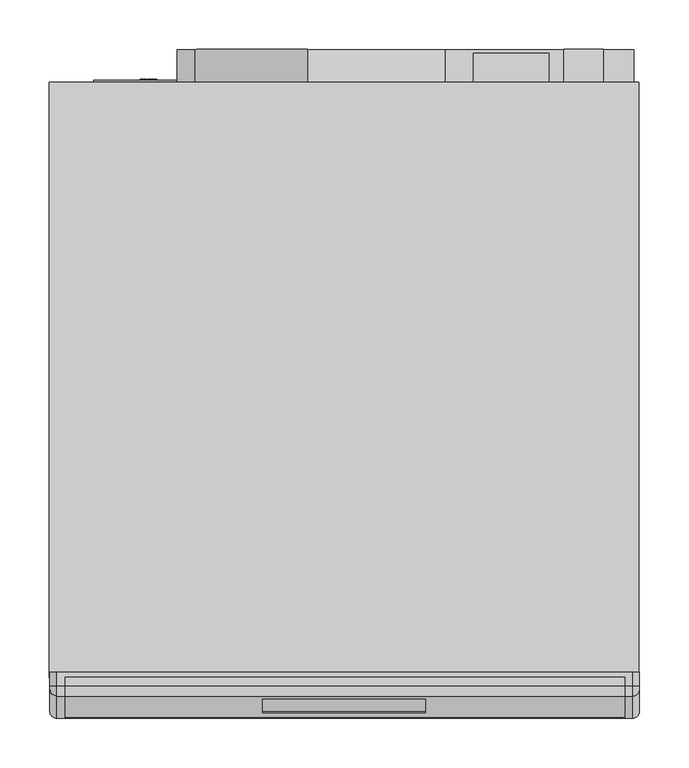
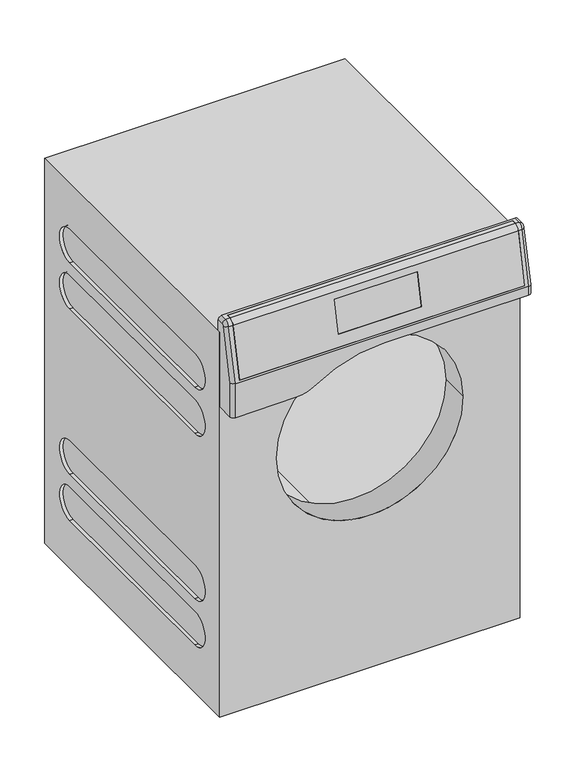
"""IFC4 building model written with IfcOpenShell, lengths in millimetres: proxy geometry, 12752080_I_PDR508ROPEL_SST : 52508462_I_12752080_PDR508ROPEL_SST."""

from ifc_helpers import new_model, si_unit, point, frame, frame_2d, origin, origin_with_axes, place, context, project, spatial, polyline, circle_curve, ellipse_curve, trimmed, segment, composite_curve, outline, extrude, source, transform, mapped, element, save
from ifc_brep_helpers import plane_surface, cylinder_surface, revolved_surface, advanced_brep


def specialty_equipment_6a1f8d6e(model_context):
    return source(origin(), model_context, "Body", "SolidModel", [
        advanced_brep(
        [(284.0, -653.5042463, 835.7290958), (284.0, -643.9845398, 843.6465521), (284.0, -635.5, 843.8687276), (284.0, -635.5, 844.8690704), (284.0, -644.0107168, 844.6462094), (284.0, -654.4823939, 835.9370075), (284.0, -676.1497738, 734.0), (284.0, -675.1274332, 734.0), (-282.0, -653.5042463, 835.7290958), (-282.0, -675.1274332, 734.0), (-282.0, -676.1497738, 734.0), (-282.0, -654.4823939, 835.9370075), (-282.0, -644.0107168, 844.6462094), (-282.0, -635.5, 844.8690704), (-282.0, -635.5, 843.8687276), (-282.0, -643.9845398, 843.6465521), (82.5, -657.4447963, 822.0), (82.5, -671.2609728, 757.0), (-82.5, -671.2609728, 757.0), (-82.5, -657.4447963, 822.0), (82.5, -670.2386322, 757.0), (82.5, -656.4224557, 822.0), (-82.5, -656.4224557, 822.0), (-82.5, -670.2386322, 757.0)],
        [
            (0, 1, circle_curve(frame((284.0, -643.7227703, 833.6499789), z_axis=(-1.0, 0.0, 0.0), x_axis=(0.0, 1.0, 0.0)), 10.0)),
            (1, 2),
            (2, 3),
            (3, 4),
            (4, 5, circle_curve(frame((284.0, -643.7227703, 833.6499789), z_axis=(1.0, 0.0, 0.0), x_axis=(0.0, 1.0, 0.0)), 11.0)),
            (5, 6),
            (6, 7),
            (7, 0),
            (8, 9),
            (9, 10),
            (10, 11),
            (11, 12, circle_curve(frame((-282.0, -643.7227703, 833.6499789), z_axis=(-1.0, 0.0, 0.0), x_axis=(0.0, 1.0, 0.0)), 11.0)),
            (12, 13),
            (13, 14),
            (14, 15),
            (15, 8, circle_curve(frame((-282.0, -643.7227703, 833.6499789), z_axis=(1.0, 0.0, 0.0), x_axis=(0.0, 1.0, 0.0)), 10.0)),
            (0, 8),
            (15, 1),
            (14, 2),
            (13, 3),
            (12, 4),
            (11, 5),
            (10, 6),
            (16, 17),
            (17, 18),
            (18, 19),
            (19, 16),
            (9, 7),
            (20, 21),
            (21, 22),
            (22, 23),
            (23, 20),
            (20, 17),
            (16, 21),
            (22, 19),
            (18, 23),
        ],
        [
            plane_surface(frame((284.0, -633.7227703, 833.6499789), z_axis=(1.0, 0.0, 0.0), x_axis=(0.0, 0.0, -1.0))),
            plane_surface(frame((-282.0, -633.7227703, 833.6499789), z_axis=(-1.0, 0.0, 0.0), x_axis=(0.0, 0.0, 1.0))),
            revolved_surface(polyline([(-282.0, -633.7227703, 833.6499789), (284.0, -633.7227703, 833.6499789)]), (-282.0, -643.7227703, 833.6499789), (-1.0, 0.0, 0.0)),
            plane_surface(frame((284.0, -643.9845398, 843.6465521), z_axis=(0.0, 0.026176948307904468, -0.9996573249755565), x_axis=(-1.0, 0.0, 0.0))),
            plane_surface(frame((284.0, -635.5, 843.8687276), z_axis=(0.0, 1.0, 0.0), x_axis=(-1.0, 0.0, 0.0))),
            plane_surface(frame((284.0, -635.5, 844.8690704), z_axis=(0.0, -0.026176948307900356, 0.9996573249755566), x_axis=(-1.0, 0.0, 0.0))),
            cylinder_surface(frame((-282.0, -643.7227703, 833.6499789), z_axis=(1.0, 0.0, 0.0), x_axis=(0.0, 1.0, 0.0)), 11.0),
            plane_surface(frame((284.0, -654.4823939, 835.9370075), z_axis=(0.0, -0.9781476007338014, 0.20791169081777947), x_axis=(-1.0, 0.0, 0.0))),
            plane_surface(frame((284.0, -676.1497738, 734.0), z_axis=(0.0, 0.0, -1.0), x_axis=(-1.0, 0.0, 0.0))),
            plane_surface(frame((284.0, -675.1274332, 734.0), z_axis=(0.0, 0.9781476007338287, -0.20791169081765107), x_axis=(-1.0, 0.0, 0.0))),
            plane_surface(frame((82.5, -657.4447963, 822.0), z_axis=(-1.0, 0.0, 0.0), x_axis=(0.0, -1.0, 0.0))),
            plane_surface(frame((-82.5, -657.4447963, 822.0), z_axis=(1.0, 0.0, 0.0), x_axis=(0.0, 1.0, 0.0))),
            plane_surface(frame((82.5, -656.4224557, 822.0), z_axis=(0.0, 0.0, -1.0), x_axis=(-1.0, 0.0, 0.0))),
            plane_surface(frame((82.5, -671.2609728, 757.0), z_axis=(0.0, 0.0, 1.0), x_axis=(-1.0, 0.0, 0.0))),
        ],
        [
            (0, [[1, 2, 3, 4, 5, 6, 7, 8]]),
            (1, [[9, 10, 11, 12, 13, 14, 15, 16]]),
            (2, [[-1, 17, -16, 18]]),
            (3, [[-2, -18, -15, 19]]),
            (4, [[-3, -19, -14, 20]]),
            (5, [[-4, -20, -13, 21]]),
            (6, [[-5, -21, -12, 22]]),
            (7, [[-6, -22, -11, 23], [24, 25, 26, 27]]),
            (8, [[-7, -23, -10, 28]]),
            (9, [[-8, -28, -9, -17], [29, 30, 31, 32]]),
            (10, [[33, -24, 34, -29]]),
            (11, [[35, -26, 36, -31]]),
            (12, [[-34, -27, -35, -30]]),
            (13, [[-33, -32, -36, -25]]),
        ],
    ),
        advanced_brep(
        [(298.5, -636.0, 815.0), (298.5, -630.5, 815.0), (298.5, -630.5, 837.9976005), (298.5, -643.8274781, 837.6486082), (298.5, -647.6353607, 834.4816256), (298.5, -670.0, 729.2642704), (298.5, -670.0, 712.0), (298.5, -636.0, 712.0), (-297.5, -636.0, 815.0), (-297.5, -636.0, 659.0), (-297.5, -670.0, 659.0), (-297.5, -670.0, 729.2642704), (-297.5, -647.6353607, 834.4816256), (-297.5, -643.8274781, 837.6486082), (-297.5, -630.5, 837.9976005), (-297.5, -630.5, 815.0), (-290.5, -630.5, 845.0), (291.5, -630.5, 845.0), (284.0, -635.5, 844.8690704), (284.0, -644.0107168, 844.6462094), (291.5, -644.0107168, 844.6462094), (-290.5, -644.0107168, 844.6462094), (-282.0, -644.0107168, 844.6462094), (-282.0, -635.5, 844.8690704), (284.0, -654.4823939, 835.9370075), (291.5000074, -654.4823939, 835.9370075), (-282.0, -654.4823939, 835.9370075), (-290.5, -654.4823939, 835.9370075), (284.0, -676.1497738, 734.0), (-282.0, -676.1497738, 734.0), (-290.5, -677.0, 730.0), (291.5, -677.0, 730.0), (-290.5, -677.0, 659.0), (-170.6302935, -677.0, 659.0), (-135.780818, -677.0, 669.5165354), (5.0, -677.0, 712.0), (291.5, -677.0, 712.0), (-170.6302935, -636.0, 659.0), (5.0, -636.0, 712.0), (-135.780818, -636.0, 669.5165354), (284.0, -635.5, 843.8687276), (284.0, -643.9845398, 843.6465521), (284.0, -653.5042463, 835.7290958), (284.0, -675.1274332, 734.0), (-282.0, -675.1274332, 734.0), (-282.0, -653.5042463, 835.7290958), (-282.0, -643.9845398, 843.6465521), (-282.0, -635.5, 843.8687276)],
        [
            (0, 1),
            (1, 2),
            (2, 3),
            (3, 4, circle_curve(frame((298.5, -643.7227703, 833.6499789), z_axis=(1.0, 0.0, 0.0), x_axis=(0.0, -0.02617694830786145, 0.9996573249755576)), 4.0)),
            (4, 5),
            (5, 6),
            (6, 7),
            (7, 0),
            (8, 9),
            (9, 10),
            (10, 11),
            (11, 12),
            (12, 13, circle_curve(frame((-297.5, -643.7227703, 833.6499789), z_axis=(-1.0, 0.0, 0.0), x_axis=(0.0, -0.9781476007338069, 0.20791169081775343)), 4.0)),
            (13, 14),
            (14, 15),
            (15, 8),
            (0, 8),
            (15, 1),
            (14, 16, ellipse_curve(frame((-290.5, -630.5, 837.9976005), z_axis=(0.0, 1.0, 0.0), x_axis=(0.0, 0.0, 0.9999999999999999)), 7.0023995, 7.0)),
            (16, 17),
            (17, 2, ellipse_curve(frame((291.5, -630.5, 837.9976005), z_axis=(0.0, 1.0, 0.0), x_axis=(0.0, 0.0, -1.0)), 7.0023995, 7.0)),
            (18, 19),
            (19, 20),
            (20, 17),
            (16, 21),
            (21, 22),
            (22, 23),
            (23, 18),
            (19, 24, circle_curve(frame((284.0, -643.7227703, 833.6499789), z_axis=(1.0, 0.0, 0.0), x_axis=(0.0, 1.0, 0.0)), 11.0)),
            (24, 25),
            (25, 20, circle_curve(frame((291.5, -643.7227703, 833.6499789), z_axis=(-1.0, 0.0, 0.0), x_axis=(0.0, 1.0, 0.0)), 11.0)),
            (26, 22, circle_curve(frame((-282.0, -643.7227703, 833.6499789), z_axis=(-1.0, 0.0, 0.0), x_axis=(0.0, 1.0, 0.0)), 11.0)),
            (21, 27, circle_curve(frame((-290.5, -643.7227703, 833.6499789), z_axis=(1.0, 0.0, 0.0), x_axis=(0.0, 1.0, 0.0)), 11.0)),
            (27, 26),
            (24, 28),
            (28, 29),
            (29, 26),
            (27, 30),
            (30, 31),
            (31, 25),
            (30, 32),
            (32, 33),
            (33, 34, circle_curve(frame((-170.6302935, -677.0, 722.0), z_axis=(0.0, -1.0, 0.0), x_axis=(1.0, 0.0, 0.0)), 63.0)),
            (34, 35, circle_curve(frame((5.0, -677.0, 457.5), z_axis=(0.0, 1.0, 0.0), x_axis=(1.0, 0.0, 0.0)), 254.5)),
            (35, 36),
            (36, 31),
            (9, 37),
            (37, 33),
            (32, 10, circle_curve(frame((-290.5, -670.0, 659.0), z_axis=(0.0, 0.0, -1.0), x_axis=(0.0, 1.0, 0.0)), 7.0)),
            (7, 38),
            (38, 39, circle_curve(frame((5.0, -636.0, 457.5), z_axis=(0.0, -1.0, 0.0), x_axis=(1.0, 0.0, 0.0)), 254.5)),
            (39, 37, circle_curve(frame((-170.6302935, -636.0, 722.0), z_axis=(0.0, 1.0, 0.0), x_axis=(1.0, 0.0, 0.0)), 63.0)),
            (18, 40),
            (40, 41),
            (41, 42, circle_curve(frame((284.0, -643.7227703, 833.6499789), z_axis=(1.0, 0.0, 0.0), x_axis=(0.0, 1.0, 0.0)), 10.0)),
            (42, 43),
            (43, 28),
            (29, 44),
            (44, 45),
            (45, 46, circle_curve(frame((-282.0, -643.7227703, 833.6499789), z_axis=(-1.0, 0.0, 0.0), x_axis=(0.0, 1.0, 0.0)), 10.0)),
            (46, 47),
            (47, 23),
            (43, 44),
            (42, 45),
            (41, 46),
            (40, 47),
            (30, 11, ellipse_curve(frame((-290.5, -670.0, 729.2642704), z_axis=(0.0, -0.10452846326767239, -0.9945218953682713), x_axis=(0.0, -0.9945218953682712, 0.1045284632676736)), 7.038558, 7.0)),
            (13, 21, circle_curve(frame((-290.5, -643.8274781, 837.6486082), z_axis=(0.0, 0.9996573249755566, 0.026176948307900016), x_axis=(0.0, 0.026176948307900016, -0.9996573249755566)), 7.0)),
            (20, 3, circle_curve(frame((291.5, -643.8274781, 837.6486082), z_axis=(0.0, 0.9996573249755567, 0.026176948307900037), x_axis=(1.0, 0.0, 0.0)), 7.0)),
            (25, 4, circle_curve(frame((291.5, -647.6353607, 834.4816256), z_axis=(0.0, 0.2079116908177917, 0.9781476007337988), x_axis=(1.0, 0.0, 0.0)), 7.0)),
            (31, 5, ellipse_curve(frame((291.5, -670.0, 729.2642704), z_axis=(0.0, 0.10452846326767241, 0.9945218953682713), x_axis=(0.0, -0.9945218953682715, 0.10452846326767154)), 7.038558, 7.0)),
            (36, 6, circle_curve(frame((291.5, -670.0, 712.0), z_axis=(0.0, 0.0, 1.0), x_axis=(1.0, 0.0, 0.0)), 7.0)),
            (35, 38),
            (34, 39),
            (27, 12, circle_curve(frame((-290.5, -647.6353607, 834.4816256), z_axis=(0.0, -0.20791169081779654, -0.9781476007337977), x_axis=(0.0, 0.9781476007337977, -0.20791169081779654)), 7.0)),
        ],
        [
            plane_surface(frame((298.5, -630.5, 815.0), z_axis=(1.0, 0.0, 0.0), x_axis=(0.0, 1.0, 0.0))),
            plane_surface(frame((-297.5, -630.5, 815.0), z_axis=(-1.0, 0.0, 0.0), x_axis=(0.0, -1.0, 0.0))),
            plane_surface(frame((298.5, -636.0, 815.0), z_axis=(0.0, 0.0, -1.0), x_axis=(-1.0, 0.0, 0.0))),
            plane_surface(frame((298.5, -630.5, 815.0), z_axis=(0.0, 1.0, 0.0), x_axis=(-1.0, 0.0, 0.0))),
            plane_surface(frame((298.5, -630.5, 845.0), z_axis=(0.0, -0.026176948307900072, 0.9996573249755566), x_axis=(-1.0, 0.0, 0.0))),
            cylinder_surface(frame((-297.5, -643.7227703, 833.6499789), z_axis=(1.0, 0.0, 0.0), x_axis=(0.0, 1.0, 0.0)), 11.0),
            plane_surface(frame((298.5, -654.4823939, 835.9370075), z_axis=(0.0, -0.9781476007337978, 0.20791169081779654), x_axis=(-1.0, 0.0, 0.0))),
            plane_surface(frame((298.5, -677.0, 730.0), z_axis=(0.0, -1.0, 0.0), x_axis=(-1.0, 0.0, 0.0))),
            plane_surface(frame((298.5, -677.0, 659.0), z_axis=(0.0, 0.0, -1.0), x_axis=(-1.0, 0.0, 0.0))),
            plane_surface(frame((298.5, -636.0, 659.0), z_axis=(0.0, 1.0, 0.0), x_axis=(-1.0, 0.0, 0.0))),
            plane_surface(frame((284.0, -676.1497738, 734.0), z_axis=(-1.0, 0.0, 0.0), x_axis=(0.0, 1.0, 0.0))),
            plane_surface(frame((-282.0, -676.1497738, 734.0), z_axis=(1.0, 0.0, 0.0), x_axis=(0.0, -1.0, 0.0))),
            plane_surface(frame((284.0, -676.1497738, 734.0), z_axis=(0.0, 0.0, 1.0), x_axis=(-1.0, 0.0, 0.0))),
            plane_surface(frame((284.0, -675.1274332, 734.0), z_axis=(0.0, -0.9781476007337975, 0.20791169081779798), x_axis=(-1.0, 0.0, 0.0))),
            cylinder_surface(frame((-282.0, -643.7227703, 833.6499789), z_axis=(-1.0, 0.0, 0.0), x_axis=(0.0, 1.0, 0.0)), 10.0),
            plane_surface(frame((284.0, -643.9845398, 843.6465521), z_axis=(0.0, -0.026176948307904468, 0.9996573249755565), x_axis=(-1.0, 0.0, 0.0))),
            plane_surface(frame((284.0, -635.5, 843.8687276), z_axis=(0.0, -1.0, 0.0), x_axis=(-1.0, 0.0, 0.0))),
            cylinder_surface(frame((-290.5, -670.0, 659.0), z_axis=(0.0, 0.0, 1.0), x_axis=(0.0, 1.0, 0.0)), 7.0),
            cylinder_surface(frame((-290.5, -643.8274781, 837.6486082), z_axis=(0.0, 0.9996573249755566, 0.026176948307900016), x_axis=(0.0, 0.026176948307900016, -0.9996573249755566)), 7.0),
            cylinder_surface(frame((291.5, -630.3167614, 838.0023987), z_axis=(0.0, -0.9996573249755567, -0.026176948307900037), x_axis=(1.0, 0.0, 0.0)), 7.0),
            revolved_surface(trimmed(ellipse_curve(frame((291.5, -643.8274781, 837.6486082), z_axis=(0.0, 0.9996573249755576, 0.026176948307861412), x_axis=(1.0, 0.0, 0.0)), 7.0, 7.0), [point((291.5, -644.0107168, 844.6462094))], [point((298.5, -643.8274781, 837.6486082))], True, "CARTESIAN"), (298.5, -643.7227703, 833.6499789), (1.0, 0.0, 0.0)),
            cylinder_surface(frame((291.5, -647.6353607, 834.4816256), z_axis=(0.0, -0.20791169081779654, -0.9781476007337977), x_axis=(1.0, 0.0, 0.0)), 7.0),
            cylinder_surface(frame((291.5, -670.0, 730.0), z_axis=(0.0, 0.0, -1.0), x_axis=(1.0, 0.0, 0.0)), 7.0),
            plane_surface(frame((298.5, -677.0, 712.0), z_axis=(0.0, 0.0, -1.0), x_axis=(0.0, 1.0, 0.0))),
            revolved_surface(polyline([(259.5, -677.0, 457.5), (259.5, -636.0, 457.5)]), (5.0, -636.0, 457.5), (0.0, -1.0, 0.0)),
            cylinder_surface(frame((-170.6302935, -636.0, 722.0), z_axis=(0.0, 1.0, 0.0), x_axis=(1.0, 0.0, 0.0)), 63.0),
            cylinder_surface(frame((-290.5, -670.1529668, 728.5446182), z_axis=(0.0, 0.20791169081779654, 0.9781476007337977), x_axis=(0.0, 0.9781476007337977, -0.20791169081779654)), 7.0),
            revolved_surface(trimmed(ellipse_curve(frame((-290.5, -647.6353607, 834.4816256), z_axis=(0.0, -0.2079116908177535, -0.9781476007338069), x_axis=(0.0, 0.9781476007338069, -0.2079116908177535)), 7.0, 7.0), [point((-290.5, -654.4823939, 835.9370075))], [point((-297.5, -647.6353607, 834.4816256))], True, "CARTESIAN"), (-297.5, -643.7227703, 833.6499789), (-1.0, 0.0, 0.0)),
        ],
        [
            (0, [[1, 2, 3, 4, 5, 6, 7, 8]]),
            (1, [[9, 10, 11, 12, 13, 14, 15, 16]]),
            (2, [[-1, 17, -16, 18]]),
            (3, [[-18, -15, 19, 20, 21, -2]]),
            (4, [[22, 23, 24, -20, 25, 26, 27, 28]]),
            (5, [[29, 30, 31, -23]]),
            (5, [[32, -26, 33, 34]]),
            (6, [[35, 36, 37, -34, 38, 39, 40, -30]]),
            (7, [[41, 42, 43, 44, 45, 46, -39]]),
            (8, [[-10, 47, 48, -42, 49]]),
            (9, [[-9, -17, -8, 50, 51, 52, -47]]),
            (10, [[53, 54, 55, 56, 57, -35, -29, -22]]),
            (11, [[58, 59, 60, 61, 62, -27, -32, -37]]),
            (12, [[-57, 63, -58, -36]]),
            (13, [[-56, 64, -59, -63]]),
            (14, [[-55, 65, -60, -64]]),
            (15, [[-54, 66, -61, -65]]),
            (16, [[-53, -28, -62, -66]]),
            (17, [[67, -11, -49, -41]]),
            (18, [[68, -25, -19, -14]]),
            (19, [[69, -3, -21, -24]]),
            (20, [[-69, -31, 70, -4]]),
            (21, [[-70, -40, 71, -5]]),
            (22, [[-71, -46, 72, -6]]),
            (23, [[73, -50, -7, -72, -45]]),
            (24, [[-73, -44, 74, -51]]),
            (25, [[-74, -43, -48, -52]]),
            (26, [[-67, -38, 75, -12]]),
            (27, [[-75, -33, -68, -13]]),
        ],
    ),
        extrude(outline(polyline([(-255.0, -34.0), (-209.0, -34.0), (-209.0, -35.0), (-255.0, -35.0), (-255.0, -34.0)])), frame((0.0, 0.0, 702.0), z_axis=(0.0, 0.0, 1.0), x_axis=(1.0, 0.0, 0.0)), (0.0, 0.0, 1.0), 91.0),
        extrude(outline(polyline([(81.9970141, 205.2110284), (81.9970141, 206.55391), (92.0465116, 202.5369367), (92.0465116, 201.4671972), (82.0001609, 197.4576916), (82.0001609, 198.7850496), (85.139586, 199.9365916), (85.139586, 204.0715681), (81.9970141, 205.2110284)]), holes=[polyline([(86.3975329, 200.3962857), (90.7905211, 202.0029406), (86.3975329, 203.5957875), (86.3975329, 200.3962857)])]), frame((0.0, -32.0, 0.0), z_axis=(0.0, 1.0, 0.0), x_axis=(0.0, 0.0, 1.0)), (0.0, 0.0, 1.0), 1.0),
        extrude(outline(polyline([(92.0465116, 194.8537288), (83.2572828, 194.8537288), (83.2572828, 189.8537288), (82.0001609, 189.8537288), (82.0001609, 196.1151094), (92.0465116, 196.1151094), (92.0465116, 194.8537288)])), frame((0.0, -32.0, 0.0), z_axis=(0.0, 1.0, 0.0), x_axis=(0.0, 0.0, 1.0)), (0.0, 0.0, 1.0), 1.0),
        extrude(outline(polyline([(81.9970141, -190.7889716), (81.9970141, -189.44609), (92.0465116, -193.4630633), (92.0465116, -194.5328028), (82.0001609, -198.5423084), (82.0001609, -197.2149504), (85.139586, -196.0634084), (85.139586, -191.9284319), (81.9970141, -190.7889716)]), holes=[polyline([(86.3975329, -195.6037143), (90.7905211, -193.9970594), (86.3975329, -192.4042125), (86.3975329, -195.6037143)])]), frame((0.0, -32.0, 0.0), z_axis=(0.0, 1.0, 0.0), x_axis=(0.0, 0.0, 1.0)), (0.0, 0.0, 1.0), 1.0),
        extrude(outline(polyline([(92.0465116, -201.1462712), (83.2572828, -201.1462712), (83.2572828, -206.1462712), (82.0001609, -206.1462712), (82.0001609, -199.8848906), (92.0465116, -199.8848906), (92.0465116, -201.1462712)])), frame((0.0, -32.0, 0.0), z_axis=(0.0, 1.0, 0.0), x_axis=(0.0, 0.0, 1.0)), (0.0, 0.0, 1.0), 1.0),
        extrude(outline(composite_curve([segment(trimmed(circle_curve(frame_2d((87.0, 198.0)), 55.25), [point((87.0, 253.25))], [point((87.0, 142.75))], False, "CARTESIAN"), True, "CONTINUOUS"), segment(trimmed(circle_curve(frame_2d((87.0, 198.0)), 55.25), [point((87.0, 142.75))], [point((87.0, 253.25))], False, "CARTESIAN"), True, "CONTINUOUS")], self_intersect=False)), frame((0.0, -34.0, 0.0), z_axis=(0.0, 1.0, 0.0), x_axis=(0.0, 0.0, 1.0)), (0.0, 0.0, 1.0), 2.0),
        extrude(outline(composite_curve([segment(trimmed(circle_curve(frame_2d((87.0, -198.0)), 55.25), [point((87.0, -142.75))], [point((87.0, -253.25))], False, "CARTESIAN"), True, "CONTINUOUS"), segment(trimmed(circle_curve(frame_2d((87.0, -198.0)), 55.25), [point((87.0, -253.25))], [point((87.0, -142.75))], False, "CARTESIAN"), True, "CONTINUOUS")], self_intersect=False)), frame((0.0, -34.0, 0.0), z_axis=(0.0, 1.0, 0.0), x_axis=(0.0, 0.0, 1.0)), (0.0, 0.0, 1.0), 2.0),
        extrude(outline(polyline([(262.0, -1.0), (262.0, -34.0), (222.0, -34.0), (222.0, -1.0), (262.0, -1.0)])), frame((0.0, 0.0, 663.0), z_axis=(0.0, 0.0, 1.0), x_axis=(1.0, 0.0, 0.0)), (0.0, 0.0, 1.0), 102.0),
        extrude(outline(composite_curve([segment(polyline([(16.0012365, 171.8350179), (16.0012365, 173.0926569), (26.0457018, 173.0926569), (26.0457018, 169.2588697)]), True, "CONTINUOUS"), segment(trimmed(circle_curve(frame_2d((23.0634182, 169.2588697)), 2.9822837), [point((26.0457018, 169.2588697))], [point((20.0811345, 169.2588697))], False, "CARTESIAN"), True, "CONTINUOUS"), segment(polyline([(20.0811345, 169.2588697), (20.0811345, 171.8350179), (16.0012365, 171.8350179)]), True, "CONTINUOUS")], self_intersect=False), holes=[composite_curve([segment(trimmed(circle_curve(frame_2d((23.0644309, 169.2588697)), 1.7264899), [point((21.3379411, 169.2588697))], [point((24.7909208, 169.2588697))], True, "CARTESIAN"), True, "CONTINUOUS"), segment(polyline([(24.7909208, 169.2588697), (24.7909208, 171.8350179), (21.3379411, 171.8350179), (21.3379411, 169.2588697)]), True, "CONTINUOUS")], self_intersect=False)]), frame((0.0, -4.0, 0.0), z_axis=(0.0, 1.0, 0.0), x_axis=(0.0, 0.0, 1.0)), (0.0, 0.0, 1.0), 1.0),
        extrude(outline(polyline([(16.0006445, 163.6718375), (16.0006445, 165.0), (26.0451716, 160.9923232), (26.0451716, 159.9218811), (16.0004865, 155.9106116), (16.0004865, 157.2393282), (19.1391224, 158.3892124), (19.1391224, 162.526368), (16.0006445, 163.6718375)]), holes=[polyline([(20.3966781, 158.8483756), (24.7905035, 160.4566766), (20.3966781, 162.0651073), (20.3966781, 158.8483756)])]), frame((0.0, -4.0, 0.0), z_axis=(0.0, 1.0, 0.0), x_axis=(0.0, 0.0, 1.0)), (0.0, 0.0, 1.0), 1.0),
        extrude(outline(composite_curve([segment(trimmed(circle_curve(frame_2d((21.0, 165.0)), 7.5), [point((21.0, 172.5))], [point((21.0, 157.5))], False, "CARTESIAN"), True, "CONTINUOUS"), segment(trimmed(circle_curve(frame_2d((21.0, 165.0)), 7.5), [point((21.0, 157.5))], [point((21.0, 172.5))], False, "CARTESIAN"), True, "CONTINUOUS")], self_intersect=False)), frame((0.0, -34.0, 0.0), z_axis=(0.0, 1.0, 0.0), x_axis=(0.0, 0.0, 1.0)), (0.0, 0.0, 1.0), 30.0),
        extrude(outline(polyline([(164.7566495, -25.4555134), (158.4761766, -25.4555134), (158.4761766, -24.1997667), (163.4981583, -24.1997667), (163.4981583, -15.4081759), (164.7566495, -15.4081759), (164.7566495, -25.4555134)])), frame((0.0, 0.0, 665.0), z_axis=(0.0, 0.0, 1.0), x_axis=(1.0, 0.0, 0.0)), (0.0, 0.0, 1.0), 1.0),
        extrude(outline(polyline([(174.0215267, -15.4081759), (174.0215267, -25.4554669), (166.6392877, -25.4554669), (166.6392877, -24.1995171), (172.7595964, -24.1995171), (172.7595964, -20.9031269), (167.1079823, -20.9031269), (167.1079823, -19.6478177), (172.7596269, -19.6478177), (172.7596269, -16.6653752), (166.7945524, -16.6653752), (166.7945524, -15.4081759), (174.0215267, -15.4081759)])), frame((0.0, 0.0, 665.0), z_axis=(0.0, 0.0, 1.0), x_axis=(1.0, 0.0, 0.0)), (0.0, 0.0, 1.0), 1.0),
        extrude(outline(composite_curve([segment(trimmed(circle_curve(frame_2d((167.0, -20.5)), 7.5), [point((167.0, -13.0))], [point((167.0, -28.0))], False, "CARTESIAN"), True, "CONTINUOUS"), segment(trimmed(circle_curve(frame_2d((167.0, -20.5)), 7.5), [point((167.0, -28.0))], [point((167.0, -13.0))], False, "CARTESIAN"), True, "CONTINUOUS")], self_intersect=False)), frame((0.0, 0.0, 666.0), z_axis=(0.0, 0.0, 1.0), x_axis=(1.0, 0.0, 0.0)), (0.0, 0.0, 1.0), 30.0),
        extrude(outline(polyline([(131.0, -5.0), (207.0, -5.0), (207.0, -34.0), (131.0, -34.0), (131.0, -5.0)])), frame((0.0, 0.0, 696.0), z_axis=(0.0, 0.0, 1.0), x_axis=(1.0, 0.0, 0.0)), (0.0, 0.0, 1.0), 81.0),
        extrude(outline(composite_curve([segment(trimmed(circle_curve(frame_2d((-267.5, -51.0)), 16.0), [point((-251.5, -51.0))], [point((-283.5, -51.0))], False, "CARTESIAN"), True, "CONTINUOUS"), segment(trimmed(circle_curve(frame_2d((-267.5, -51.0)), 16.0), [point((-283.5, -51.0))], [point((-251.5, -51.0))], False, "CARTESIAN"), True, "CONTINUOUS")], self_intersect=False)), origin_with_axes(), (0.0, 0.0, 1.0), 8.0),
        extrude(outline(composite_curve([segment(trimmed(circle_curve(frame_2d((267.5, -51.0)), 16.0), [point((283.5, -51.0))], [point((251.5, -51.0))], False, "CARTESIAN"), True, "CONTINUOUS"), segment(trimmed(circle_curve(frame_2d((267.5, -51.0)), 16.0), [point((251.5, -51.0))], [point((283.5, -51.0))], False, "CARTESIAN"), True, "CONTINUOUS")], self_intersect=False)), origin_with_axes(), (0.0, 0.0, 1.0), 8.0),
        extrude(outline(composite_curve([segment(trimmed(circle_curve(frame_2d((267.5, -597.0)), 16.0), [point((283.5, -597.0))], [point((251.5, -597.0))], False, "CARTESIAN"), True, "CONTINUOUS"), segment(trimmed(circle_curve(frame_2d((267.5, -597.0)), 16.0), [point((251.5, -597.0))], [point((283.5, -597.0))], False, "CARTESIAN"), True, "CONTINUOUS")], self_intersect=False)), origin_with_axes(), (0.0, 0.0, 1.0), 8.0),
        extrude(outline(composite_curve([segment(trimmed(circle_curve(frame_2d((-267.5, -597.0)), 16.0), [point((-251.5, -597.0))], [point((-283.5, -597.0))], False, "CARTESIAN"), True, "CONTINUOUS"), segment(trimmed(circle_curve(frame_2d((-267.5, -597.0)), 16.0), [point((-283.5, -597.0))], [point((-251.5, -597.0))], False, "CARTESIAN"), True, "CONTINUOUS")], self_intersect=False)), origin_with_axes(), (0.0, 0.0, 1.0), 8.0),
        advanced_brep(
        [(-185.0, -578.5, 512.0), (-185.0, -636.0, 512.0), (185.0, -636.0, 512.0), (185.0, -578.5, 512.0), (298.0, -34.0, 815.0), (298.0, -34.0, 8.0), (-298.0, -34.0, 8.0), (-298.0, -34.0, 815.0), (-209.0, -34.0, 793.0), (-255.0, -34.0, 793.0), (-255.0, -34.0, 702.0), (-209.0, -34.0, 702.0), (298.0, -636.0, 815.0), (-298.0, -636.0, 815.0), (-298.0, -636.0, 8.0), (298.0, -636.0, 8.0), (298.0, -551.0, 649.0), (298.0, -551.0, 719.0), (298.0, -121.0, 719.0), (298.0, -121.0, 649.0), (298.0, -551.0, 552.0), (298.0, -551.0, 622.0), (298.0, -121.0, 622.0), (298.0, -121.0, 552.0), (298.0, -551.0, 205.5), (298.0, -551.0, 275.5), (298.0, -121.0, 275.5), (298.0, -121.0, 205.5), (298.0, -551.0, 108.5), (298.0, -551.0, 178.5), (298.0, -121.0, 178.5), (298.0, -121.0, 108.5), (-298.0, -551.0, 719.0), (-298.0, -551.0, 649.0), (-298.0, -121.0, 649.0), (-298.0, -121.0, 719.0), (-298.0, -551.0, 622.0), (-298.0, -551.0, 552.0), (-298.0, -121.0, 552.0), (-298.0, -121.0, 622.0), (-298.0, -551.0, 275.5), (-298.0, -551.0, 205.5), (-298.0, -121.0, 205.5), (-298.0, -121.0, 275.5), (-298.0, -551.0, 178.5), (-298.0, -551.0, 108.5), (-298.0, -121.0, 108.5), (-298.0, -121.0, 178.5), (291.0, -551.0, 719.0), (291.0, -551.0, 649.0), (291.0, -121.0, 649.0), (291.0, -121.0, 719.0), (291.0, -551.0, 622.0), (291.0, -551.0, 552.0), (291.0, -121.0, 552.0), (291.0, -121.0, 622.0), (291.0, -551.0, 275.5), (291.0, -551.0, 205.5), (291.0, -121.0, 205.5), (291.0, -121.0, 275.5), (291.0, -551.0, 178.5), (291.0, -551.0, 108.5), (291.0, -121.0, 108.5), (291.0, -121.0, 178.5), (-291.0, -551.0, 719.0), (-291.0, -121.0, 719.0), (-291.0, -121.0, 649.0), (-291.0, -551.0, 649.0), (-291.0, -551.0, 622.0), (-291.0, -121.0, 622.0), (-291.0, -121.0, 552.0), (-291.0, -551.0, 552.0), (-291.0, -551.0, 275.5), (-291.0, -121.0, 275.5), (-291.0, -121.0, 205.5), (-291.0, -551.0, 205.5), (-291.0, -551.0, 178.5), (-291.0, -121.0, 178.5), (-291.0, -121.0, 108.5), (-291.0, -551.0, 108.5), (0.0, -56.0, 229.0), (0.0, -56.0, 795.0), (-209.0, -56.0, 702.8088048), (-209.0, -56.0, 702.0), (-209.7355478, -56.0, 702.0), (0.0, -578.5, 229.0), (0.0, -578.5, 795.0), (-209.7355478, -151.0, 702.0), (-209.0, -151.0, 702.8088048), (-255.0, -151.0, 793.0), (-209.0, -151.0, 793.0), (-255.0, -151.0, 702.0)],
        [
            (0, 1),
            (1, 2, circle_curve(frame((0.0, -636.0, 512.0), z_axis=(0.0, -1.0, 0.0), x_axis=(-1.0, 0.0, 0.0)), 185.0)),
            (2, 3),
            (3, 0, circle_curve(frame((0.0, -578.5, 512.0), z_axis=(0.0, 1.0, 0.0), x_axis=(-1.0, 0.0, 0.0)), 185.0)),
            (0, 3, circle_curve(frame((0.0, -578.5, 512.0), z_axis=(0.0, 1.0, 0.0), x_axis=(-1.0, 0.0, 0.0)), 185.0)),
            (2, 1, circle_curve(frame((0.0, -636.0, 512.0), z_axis=(0.0, -1.0, 0.0), x_axis=(-1.0, 0.0, 0.0)), 185.0)),
            (4, 5),
            (5, 6),
            (6, 7),
            (7, 4),
            (8, 9),
            (9, 10),
            (10, 11),
            (11, 8),
            (12, 13),
            (13, 14),
            (14, 15),
            (15, 12),
            (4, 12),
            (15, 5),
            (16, 17, circle_curve(frame((298.0, -551.0, 684.0), z_axis=(-1.0, 0.0, 0.0), x_axis=(0.0, 1.0, 0.0)), 35.0)),
            (17, 18),
            (18, 19, circle_curve(frame((298.0, -121.0, 684.0), z_axis=(-1.0, 0.0, 0.0), x_axis=(0.0, 1.0, 0.0)), 35.0)),
            (19, 16),
            (20, 21, circle_curve(frame((298.0, -551.0, 587.0), z_axis=(-1.0, 0.0, 0.0), x_axis=(0.0, 1.0, 0.0)), 35.0)),
            (21, 22),
            (22, 23, circle_curve(frame((298.0, -121.0, 587.0), z_axis=(-1.0, 0.0, 0.0), x_axis=(0.0, 1.0, 0.0)), 35.0)),
            (23, 20),
            (24, 25, circle_curve(frame((298.0, -551.0, 240.5), z_axis=(-1.0, 0.0, 0.0), x_axis=(0.0, 1.0, 0.0)), 35.0)),
            (25, 26),
            (26, 27, circle_curve(frame((298.0, -121.0, 240.5), z_axis=(-1.0, 0.0, 0.0), x_axis=(0.0, 1.0, 0.0)), 35.0)),
            (27, 24),
            (28, 29, circle_curve(frame((298.0, -551.0, 143.5), z_axis=(-1.0, 0.0, 0.0), x_axis=(0.0, 1.0, 0.0)), 35.0)),
            (29, 30),
            (30, 31, circle_curve(frame((298.0, -121.0, 143.5), z_axis=(-1.0, 0.0, 0.0), x_axis=(0.0, 1.0, 0.0)), 35.0)),
            (31, 28),
            (14, 6),
            (13, 7),
            (32, 33, circle_curve(frame((-298.0, -551.0, 684.0), z_axis=(1.0, 0.0, 0.0), x_axis=(0.0, 1.0, 0.0)), 35.0)),
            (33, 34),
            (34, 35, circle_curve(frame((-298.0, -121.0, 684.0), z_axis=(1.0, 0.0, 0.0), x_axis=(0.0, 1.0, 0.0)), 35.0)),
            (35, 32),
            (36, 37, circle_curve(frame((-298.0, -551.0, 587.0), z_axis=(1.0, 0.0, 0.0), x_axis=(0.0, 1.0, 0.0)), 35.0)),
            (37, 38),
            (38, 39, circle_curve(frame((-298.0, -121.0, 587.0), z_axis=(1.0, 0.0, 0.0), x_axis=(0.0, 1.0, 0.0)), 35.0)),
            (39, 36),
            (40, 41, circle_curve(frame((-298.0, -551.0, 240.5), z_axis=(1.0, 0.0, 0.0), x_axis=(0.0, 1.0, 0.0)), 35.0)),
            (41, 42),
            (42, 43, circle_curve(frame((-298.0, -121.0, 240.5), z_axis=(1.0, 0.0, 0.0), x_axis=(0.0, 1.0, 0.0)), 35.0)),
            (43, 40),
            (44, 45, circle_curve(frame((-298.0, -551.0, 143.5), z_axis=(1.0, 0.0, 0.0), x_axis=(0.0, 1.0, 0.0)), 35.0)),
            (45, 46),
            (46, 47, circle_curve(frame((-298.0, -121.0, 143.5), z_axis=(1.0, 0.0, 0.0), x_axis=(0.0, 1.0, 0.0)), 35.0)),
            (47, 44),
            (48, 49, circle_curve(frame((291.0, -551.0, 684.0), z_axis=(1.0, 0.0, 0.0), x_axis=(0.0, 1.0, 0.0)), 35.0)),
            (49, 50),
            (50, 51, circle_curve(frame((291.0, -121.0, 684.0), z_axis=(1.0, 0.0, 0.0), x_axis=(0.0, 1.0, 0.0)), 35.0)),
            (51, 48),
            (52, 53, circle_curve(frame((291.0, -551.0, 587.0), z_axis=(1.0, 0.0, 0.0), x_axis=(0.0, 1.0, 0.0)), 35.0)),
            (53, 54),
            (54, 55, circle_curve(frame((291.0, -121.0, 587.0), z_axis=(1.0, 0.0, 0.0), x_axis=(0.0, 1.0, 0.0)), 35.0)),
            (55, 52),
            (56, 57, circle_curve(frame((291.0, -551.0, 240.5), z_axis=(1.0, 0.0, 0.0), x_axis=(0.0, 1.0, 0.0)), 35.0)),
            (57, 58),
            (58, 59, circle_curve(frame((291.0, -121.0, 240.5), z_axis=(1.0, 0.0, 0.0), x_axis=(0.0, 1.0, 0.0)), 35.0)),
            (59, 56),
            (60, 61, circle_curve(frame((291.0, -551.0, 143.5), z_axis=(1.0, 0.0, 0.0), x_axis=(0.0, 1.0, 0.0)), 35.0)),
            (61, 62),
            (62, 63, circle_curve(frame((291.0, -121.0, 143.5), z_axis=(1.0, 0.0, 0.0), x_axis=(0.0, 1.0, 0.0)), 35.0)),
            (63, 60),
            (48, 17),
            (16, 49),
            (19, 50),
            (18, 51),
            (52, 21),
            (20, 53),
            (23, 54),
            (22, 55),
            (56, 25),
            (24, 57),
            (27, 58),
            (26, 59),
            (60, 29),
            (28, 61),
            (31, 62),
            (30, 63),
            (64, 65),
            (65, 66, circle_curve(frame((-291.0, -121.0, 684.0), z_axis=(-1.0, 0.0, 0.0), x_axis=(0.0, 1.0, 0.0)), 35.0)),
            (66, 67),
            (67, 64, circle_curve(frame((-291.0, -551.0, 684.0), z_axis=(-1.0, 0.0, 0.0), x_axis=(0.0, 1.0, 0.0)), 35.0)),
            (68, 69),
            (69, 70, circle_curve(frame((-291.0, -121.0, 587.0), z_axis=(-1.0, 0.0, 0.0), x_axis=(0.0, 1.0, 0.0)), 35.0)),
            (70, 71),
            (71, 68, circle_curve(frame((-291.0, -551.0, 587.0), z_axis=(-1.0, 0.0, 0.0), x_axis=(0.0, 1.0, 0.0)), 35.0)),
            (72, 73),
            (73, 74, circle_curve(frame((-291.0, -121.0, 240.5), z_axis=(-1.0, 0.0, 0.0), x_axis=(0.0, 1.0, 0.0)), 35.0)),
            (74, 75),
            (75, 72, circle_curve(frame((-291.0, -551.0, 240.5), z_axis=(-1.0, 0.0, 0.0), x_axis=(0.0, 1.0, 0.0)), 35.0)),
            (76, 77),
            (77, 78, circle_curve(frame((-291.0, -121.0, 143.5), z_axis=(-1.0, 0.0, 0.0), x_axis=(0.0, 1.0, 0.0)), 35.0)),
            (78, 79),
            (79, 76, circle_curve(frame((-291.0, -551.0, 143.5), z_axis=(-1.0, 0.0, 0.0), x_axis=(0.0, 1.0, 0.0)), 35.0)),
            (67, 33),
            (32, 64),
            (66, 34),
            (65, 35),
            (71, 37),
            (36, 68),
            (70, 38),
            (69, 39),
            (75, 41),
            (40, 72),
            (74, 42),
            (73, 43),
            (79, 45),
            (44, 76),
            (78, 46),
            (77, 47),
            (80, 81, circle_curve(frame((0.0, -56.0, 512.0), z_axis=(0.0, -1.0, 0.0), x_axis=(0.0, 0.0, 1.0)), 283.0)),
            (81, 82, circle_curve(frame((0.0, -56.0, 512.0), z_axis=(0.0, -1.0, 0.0), x_axis=(0.0, 0.0, 1.0)), 283.0)),
            (82, 83),
            (83, 84),
            (84, 80, circle_curve(frame((0.0, -56.0, 512.0), z_axis=(0.0, -1.0, 0.0), x_axis=(0.0, 0.0, 1.0)), 283.0)),
            (85, 86, circle_curve(frame((0.0, -578.5, 512.0), z_axis=(0.0, 1.0, 0.0), x_axis=(0.0, 0.0, 1.0)), 283.0)),
            (86, 85, circle_curve(frame((0.0, -578.5, 512.0), z_axis=(0.0, 1.0, 0.0), x_axis=(0.0, 0.0, 1.0)), 283.0)),
            (80, 85),
            (86, 81),
            (84, 87),
            (87, 88, circle_curve(frame((0.0, -151.0, 512.0), z_axis=(0.0, 1.0, 0.0), x_axis=(0.0, 0.0, 1.0)), 283.0)),
            (88, 82),
            (89, 90),
            (90, 88),
            (87, 91),
            (91, 89),
            (89, 9),
            (8, 90),
            (11, 83),
            (10, 91),
        ],
        [
            revolved_surface(polyline([(-185.0, -578.5, 512.0), (-185.0, -636.0, 512.0)]), (0.0, -636.0, 512.0), (0.0, 1.0, 0.0)),
            plane_surface(frame((298.0, -34.0, 815.0), z_axis=(0.0, 1.0, 0.0), x_axis=(0.0, 0.0, -1.0))),
            plane_surface(frame((298.0, -636.0, 815.0), z_axis=(0.0, -1.0, 0.0), x_axis=(0.0, 0.0, 1.0))),
            plane_surface(frame((298.0, -34.0, 815.0), z_axis=(1.0, 0.0, 0.0), x_axis=(0.0, -1.0, 0.0))),
            plane_surface(frame((298.0, -34.0, 8.0), z_axis=(0.0, 0.0, -1.0), x_axis=(0.0, -1.0, 0.0))),
            plane_surface(frame((-298.0, -34.0, 8.0), z_axis=(-1.0, 0.0, 0.0), x_axis=(0.0, -1.0, 0.0))),
            plane_surface(frame((-298.0, -34.0, 815.0), z_axis=(0.0, 0.0, 1.0), x_axis=(0.0, -1.0, 0.0))),
            plane_surface(frame((291.0, -516.0, 684.0), z_axis=(1.0, 0.0, 0.0), x_axis=(0.0, 0.0, -1.0))),
            revolved_surface(polyline([(298.0, -516.0, 684.0), (291.0, -516.0, 684.0)]), (291.0, -551.0, 684.0), (1.0, 0.0, 0.0)),
            plane_surface(frame((298.0, -551.0, 649.0), z_axis=(0.0, 0.0, 1.0), x_axis=(-1.0, 0.0, 0.0))),
            revolved_surface(polyline([(298.0, -86.0, 684.0), (291.0, -86.0, 684.0)]), (291.0, -121.0, 684.0), (1.0, 0.0, 0.0)),
            plane_surface(frame((298.0, -121.0, 719.0), z_axis=(0.0, 0.0, -1.0), x_axis=(-1.0, 0.0, 0.0))),
            revolved_surface(polyline([(298.0, -516.0, 587.0), (291.0, -516.0, 587.0)]), (298.0, -551.0, 587.0), (1.0, 0.0, 0.0)),
            plane_surface(frame((298.0, -551.0, 552.0), z_axis=(0.0, 0.0, 1.0), x_axis=(-1.0, 0.0, 0.0))),
            revolved_surface(polyline([(298.0, -86.0, 587.0), (291.0, -86.0, 587.0)]), (298.0, -121.0, 587.0), (1.0, 0.0, 0.0)),
            plane_surface(frame((298.0, -121.0, 622.0), z_axis=(0.0, 0.0, -1.0), x_axis=(-1.0, 0.0, 0.0))),
            revolved_surface(polyline([(298.0, -516.0, 240.5), (291.0, -516.0, 240.5)]), (298.0, -551.0, 240.5), (1.0, 0.0, 0.0)),
            plane_surface(frame((298.0, -551.0, 205.5), z_axis=(0.0, 0.0, 1.0), x_axis=(-1.0, 0.0, 0.0))),
            revolved_surface(polyline([(298.0, -86.0, 240.5), (291.0, -86.0, 240.5)]), (298.0, -121.0, 240.5), (1.0, 0.0, 0.0)),
            plane_surface(frame((298.0, -121.0, 275.5), z_axis=(0.0, 0.0, -1.0), x_axis=(-1.0, 0.0, 0.0))),
            revolved_surface(polyline([(298.0, -516.0, 143.5), (291.0, -516.0, 143.5)]), (298.0, -551.0, 143.5), (1.0, 0.0, 0.0)),
            plane_surface(frame((298.0, -551.0, 108.5), z_axis=(0.0, 0.0, 1.0), x_axis=(-1.0, 0.0, 0.0))),
            revolved_surface(polyline([(298.0, -86.0, 143.5), (291.0, -86.0, 143.5)]), (298.0, -121.0, 143.5), (1.0, 0.0, 0.0)),
            plane_surface(frame((298.0, -121.0, 178.5), z_axis=(0.0, 0.0, -1.0), x_axis=(-1.0, 0.0, 0.0))),
            plane_surface(frame((-291.0, -516.0, 684.0), z_axis=(-1.0, 0.0, 0.0), x_axis=(0.0, 0.0, 1.0))),
            revolved_surface(polyline([(-291.0, -516.0, 684.0), (-298.0, -516.0, 684.0)]), (-298.0, -551.0, 684.0), (1.0, 0.0, 0.0)),
            plane_surface(frame((-291.0, -551.0, 649.0), z_axis=(0.0, 0.0, 1.0), x_axis=(-1.0, 0.0, 0.0))),
            revolved_surface(polyline([(-291.0, -86.0, 684.0), (-298.0, -86.0, 684.0)]), (-298.0, -121.0, 684.0), (1.0, 0.0, 0.0)),
            plane_surface(frame((-291.0, -121.0, 719.0), z_axis=(0.0, 0.0, -1.0), x_axis=(-1.0, 0.0, 0.0))),
            revolved_surface(polyline([(-291.0, -516.0, 587.0), (-298.0, -516.0, 587.0)]), (-298.0, -551.0, 587.0), (1.0, 0.0, 0.0)),
            plane_surface(frame((-291.0, -551.0, 552.0), z_axis=(0.0, 0.0, 1.0), x_axis=(-1.0, 0.0, 0.0))),
            revolved_surface(polyline([(-291.0, -86.0, 587.0), (-298.0, -86.0, 587.0)]), (-298.0, -121.0, 587.0), (1.0, 0.0, 0.0)),
            plane_surface(frame((-291.0, -121.0, 622.0), z_axis=(0.0, 0.0, -1.0), x_axis=(-1.0, 0.0, 0.0))),
            revolved_surface(polyline([(-291.0, -516.0, 240.5), (-298.0, -516.0, 240.5)]), (-298.0, -551.0, 240.5), (1.0, 0.0, 0.0)),
            plane_surface(frame((-291.0, -551.0, 205.5), z_axis=(0.0, 0.0, 1.0), x_axis=(-1.0, 0.0, 0.0))),
            revolved_surface(polyline([(-291.0, -86.0, 240.5), (-298.0, -86.0, 240.5)]), (-298.0, -121.0, 240.5), (1.0, 0.0, 0.0)),
            plane_surface(frame((-291.0, -121.0, 275.5), z_axis=(0.0, 0.0, -1.0), x_axis=(-1.0, 0.0, 0.0))),
            revolved_surface(polyline([(-291.0, -516.0, 143.5), (-298.0, -516.0, 143.5)]), (-298.0, -551.0, 143.5), (1.0, 0.0, 0.0)),
            plane_surface(frame((-291.0, -551.0, 108.5), z_axis=(0.0, 0.0, 1.0), x_axis=(-1.0, 0.0, 0.0))),
            revolved_surface(polyline([(-291.0, -86.0, 143.5), (-298.0, -86.0, 143.5)]), (-298.0, -121.0, 143.5), (1.0, 0.0, 0.0)),
            plane_surface(frame((-291.0, -121.0, 178.5), z_axis=(0.0, 0.0, -1.0), x_axis=(-1.0, 0.0, 0.0))),
            plane_surface(frame((0.0, -56.0, 795.0), z_axis=(0.0, -1.0, 0.0), x_axis=(1.0, 0.0, 0.0))),
            plane_surface(frame((0.0, -578.5, 795.0), z_axis=(0.0, 1.0, 0.0), x_axis=(-1.0, 0.0, 0.0))),
            revolved_surface(polyline([(0.0, -578.5, 795.0), (0.0, -56.0, 795.0)]), (0.0, -56.0, 512.0), (0.0, -1.0, 0.0)),
            plane_surface(frame((-209.0, -151.0, 793.0), z_axis=(0.0, 1.0, 0.0), x_axis=(-1.0, 0.0, 0.0))),
            plane_surface(frame((-255.0, -34.0, 793.0), z_axis=(0.0, 0.0, -1.0), x_axis=(0.0, -1.0, 0.0))),
            plane_surface(frame((-209.0, -34.0, 793.0), z_axis=(-1.0, 0.0, 0.0), x_axis=(0.0, -1.0, 0.0))),
            plane_surface(frame((-209.0, -34.0, 702.0), z_axis=(0.0, 0.0, 1.0), x_axis=(0.0, -1.0, 0.0))),
            plane_surface(frame((-255.0, -34.0, 702.0), z_axis=(1.0, 0.0, 0.0), x_axis=(0.0, -1.0, 0.0))),
        ],
        [
            (0, [[1, 2, 3, 4]]),
            (0, [[-1, 5, -3, 6]]),
            (1, [[7, 8, 9, 10], [11, 12, 13, 14]]),
            (2, [[15, 16, 17, 18], [-2, -6]]),
            (3, [[-7, 19, -18, 20], [21, 22, 23, 24], [25, 26, 27, 28], [29, 30, 31, 32], [33, 34, 35, 36]]),
            (4, [[-8, -20, -17, 37]]),
            (5, [[-9, -37, -16, 38], [39, 40, 41, 42], [43, 44, 45, 46], [47, 48, 49, 50], [51, 52, 53, 54]]),
            (6, [[-10, -38, -15, -19]]),
            (7, [[55, 56, 57, 58]]),
            (7, [[59, 60, 61, 62]]),
            (7, [[63, 64, 65, 66]]),
            (7, [[67, 68, 69, 70]]),
            (8, [[-55, 71, -21, 72]]),
            (9, [[-56, -72, -24, 73]]),
            (10, [[-57, -73, -23, 74]]),
            (11, [[-58, -74, -22, -71]]),
            (12, [[-59, 75, -25, 76]]),
            (13, [[-60, -76, -28, 77]]),
            (14, [[-61, -77, -27, 78]]),
            (15, [[-62, -78, -26, -75]]),
            (16, [[-63, 79, -29, 80]]),
            (17, [[-64, -80, -32, 81]]),
            (18, [[-65, -81, -31, 82]]),
            (19, [[-66, -82, -30, -79]]),
            (20, [[-67, 83, -33, 84]]),
            (21, [[-68, -84, -36, 85]]),
            (22, [[-69, -85, -35, 86]]),
            (23, [[-70, -86, -34, -83]]),
            (24, [[87, 88, 89, 90]]),
            (24, [[91, 92, 93, 94]]),
            (24, [[95, 96, 97, 98]]),
            (24, [[99, 100, 101, 102]]),
            (25, [[-90, 103, -39, 104]]),
            (26, [[-89, 105, -40, -103]]),
            (27, [[-88, 106, -41, -105]]),
            (28, [[-87, -104, -42, -106]]),
            (29, [[-94, 107, -43, 108]]),
            (30, [[-93, 109, -44, -107]]),
            (31, [[-92, 110, -45, -109]]),
            (32, [[-91, -108, -46, -110]]),
            (33, [[-98, 111, -47, 112]]),
            (34, [[-97, 113, -48, -111]]),
            (35, [[-96, 114, -49, -113]]),
            (36, [[-95, -112, -50, -114]]),
            (37, [[-102, 115, -51, 116]]),
            (38, [[-101, 117, -52, -115]]),
            (39, [[-100, 118, -53, -117]]),
            (40, [[-99, -116, -54, -118]]),
            (41, [[119, 120, 121, 122, 123]]),
            (42, [[124, 125], [-4, -5]]),
            (43, [[-119, 126, -125, 127]]),
            (43, [[-124, -126, -123, 128, 129, 130, -120, -127]]),
            (44, [[131, 132, -129, 133, 134]]),
            (45, [[-131, 135, -11, 136]]),
            (46, [[-136, -14, 137, -121, -130, -132]]),
            (47, [[138, -133, -128, -122, -137, -13]]),
            (48, [[-134, -138, -12, -135]]),
        ],
    ),
        extrude(outline(composite_curve([segment(polyline([(98.0, 22.0), (218.0, 292.8415415), (648.7318108, 102.0), (750.1057931, -37.0)]), True, "CONTINUOUS"), segment(trimmed(circle_curve(frame_2d((691.972157, -79.3973971)), 71.951782), [point((750.1057931, -37.0))], [point((696.0, -151.2363518))], False, "CARTESIAN"), True, "CONTINUOUS"), segment(polyline([(696.0, -151.2363518), (527.0, -169.0), (98.0, 22.0)]), True, "CONTINUOUS")], self_intersect=False)), frame((0.0, -34.0, 0.0), z_axis=(0.0, 1.0, 0.0), x_axis=(0.0, 0.0, 1.0)), (0.0, 0.0, 1.0), 33.0),
    ])


if __name__ == "__main__":
    model = new_model("IFC4")
    model_context = context("Model", 3, world=origin())
    ifc_project = project(units=[si_unit("LENGTHUNIT", "METRE", prefix="MILLI")], contexts=[model_context])
    site = spatial("IfcSite", under=ifc_project)
    building = spatial("IfcBuilding", under=site)
    placement = place(None, origin())
    specialty_equipment_shape = specialty_equipment_6a1f8d6e(model_context)
    element("IfcBuildingElementProxy", 1, Name="12752080_I_PDR508ROPEL_SST : 52508462_I_12752080_PDR508ROPEL_SST", ObjectType="12752080_I_PDR508ROPEL_SST : 52508462_I_12752080_PDR508ROPEL_SST", at=placement, inside=building, context=model_context, shape_type="MappedRepresentation", body=[
        mapped(specialty_equipment_shape, transform((0.0, 0.0, 0.0), x_axis=(1.0, 0.0, 0.0), y_axis=(0.0, 1.0, 0.0), z_axis=(0.0, 0.0, 1.0))),
    ])
    save(model, "model.ifc")
